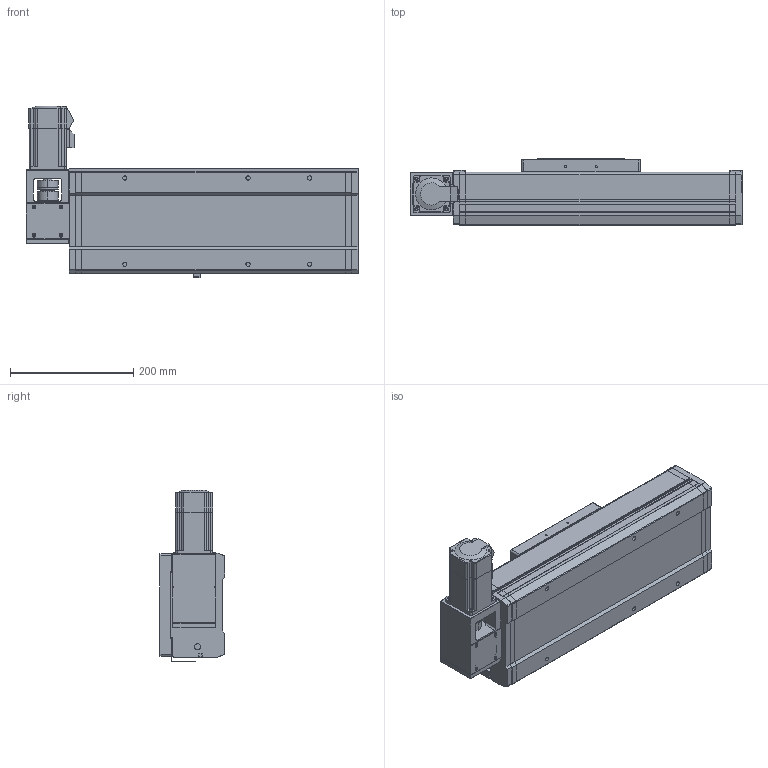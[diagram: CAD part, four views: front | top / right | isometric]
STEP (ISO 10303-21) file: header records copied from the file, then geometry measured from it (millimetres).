
FILE_DESCRIPTION((''),'2;1');
FILE_NAME('170-TZJ3FL-S150_ASM','2015-12-04T',('lenovo'),(''),'PRO/ENGINEER BY PARAMETRIC TECHNOLOGY CORPORATION, 2010280','PRO/ENGINEER BY PARAMETRIC TECHNOLOGY CORPORATION, 2010280','');
FILE_SCHEMA(('CONFIG_CONTROL_DESIGN'));
Length unit declared in the file: millimetre
Products named in the file (5): 170-TJFL-DZ; 170-HK; 170-HDB-01; 170-TZJ3FL-DJZ; 170-TZJ3FL-S150_ASM
Assembly tree (4 placements, depth 2):
  170-TZJ3FL-S150_ASM
    170-TJFL-DZ
    170-HK
    170-HDB-01
    170-TZJ3FL-DJZ
Bounding box: 539 x 107 x 278.5 mm (x, y, z)
Volume: 4652449.5 mm3; surface area: 767445.2 mm2
Topology: 6 solids, 30 shells, 1462 faces, 3985 edges, 2657 vertices
Faces by surface type: plane 786, cylinder 535, cone 113, torus 28
Entity records: 46939 total; most frequent: CARTESIAN_POINT 8387, DIRECTION 8228, ORIENTED_EDGE 7970, EDGE_CURVE 3985, AXIS2_PLACEMENT_3D 2814, VERTEX_POINT 2657, VECTOR 2600, LINE 2600
